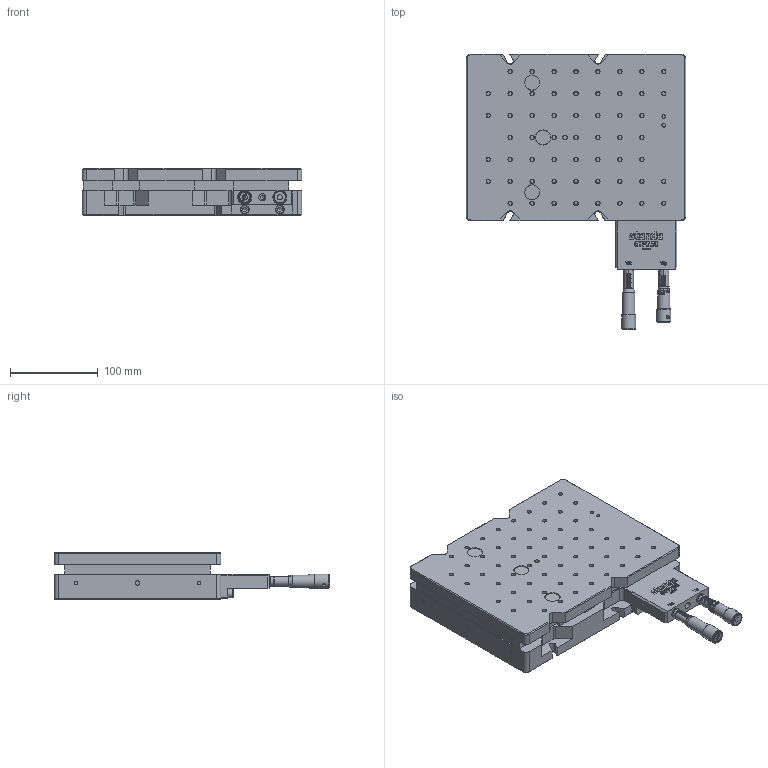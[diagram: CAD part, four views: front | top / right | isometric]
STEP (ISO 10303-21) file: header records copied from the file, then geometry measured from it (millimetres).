
FILE_DESCRIPTION(/* description */ (''),/* implementation_level */ '2;1');
FILE_NAME(/* name */ 'U:\KONSTRUKTORIAI\DOKUMENTACIJA\6\6TP250\STEP\6TP250 SB.stp',/* time_stamp */ '2021-10-13T06:59:42+03:00',/* author */ ('dsgn32'),/* organization */ (''),/* preprocessor_version */ 'ST-DEVELOPER v15.2',/* originating_system */ 'Autodesk Inventor 2014',/* authorisation */ '');
FILE_SCHEMA (('AUTOMOTIVE_DESIGN { 1 0 10303 214 3 1 1 }'));
Products named in the file (1): 6TP250 SB
Bounding box: 250 x 314.11 x 54 mm (x, y, z)
Volume: 2408055.8 mm3; surface area: 223609 mm2
Topology: 6 solids, 43 shells, 2566 faces, 6422 edges, 4287 vertices
Faces by surface type: plane 1462, cylinder 552, bspline 455, cone 71, torus 26
Full cylindrical faces by diameter (mm): 1.5 x4, 2.459 x15, 3 x13, 3.242 x2, 3.4 x10, 4 x3, 4.134 x4, 4.2 x59, 4.8 x1, 4.917 x66, 5 x4, 5.188 x2, 5.459 x2, 5.5 x10, 6 x15, 6.5 x2, 6.6 x3, 8 x1, 8.1 x4, 8.8 x2, 8.917 x6, 9 x4, 9.2 x1, 9.4 x8, 10 x5, 11 x3, 11.2 x2, 12 x1, 13 x2, 14 x4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
Entity records: 122830 total; most frequent: CARTESIAN_POINT 65721, ORIENTED_EDGE 11740, DIRECTION 9414, EDGE_CURVE 5867, VERTEX_POINT 4117, EDGE_LOOP 3388, AXIS2_PLACEMENT_3D 3307, LINE 2800
